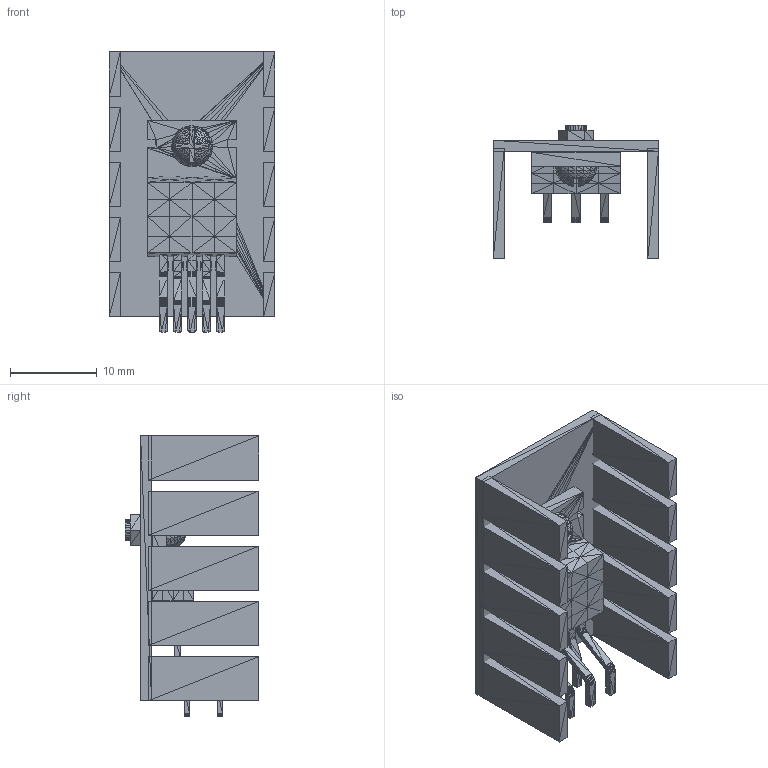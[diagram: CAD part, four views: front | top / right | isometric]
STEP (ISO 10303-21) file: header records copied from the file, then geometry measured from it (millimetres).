
FILE_DESCRIPTION(('HOOPS Exchange Step'),'2;1');
FILE_NAME('***.stp');
FILE_SCHEMA( ('AP242_MANAGED_MODEL_BASED_3D_ENGINEERING_MIM_LF {1 0 10303 442 1 1 4 }') );
Length unit declared in the file: inch
Products named in the file (23): TO-220_5WHTSNK_2; TO-220_5WHTSNK_3; TO-220_5WHTSNK_4; TO-220_5WHTSNK_5; TO-220_5WHTSNK_6; TO-220_5WHTSNK_7; TO-220_5WHTSNK_8; TO-220_5WHTSNK_9; TO-220_5WHTSNK_10; TO-220_5WHTSNK_11; TO-220_5WHTSNK_12; TO-220_5WHTSNK_13; TO-220_5WHTSNK_14; TO-220_5WHTSNK_15; TO-220_5WHTSNK_16; TO-220_5WHTSNK_17; TO-220_5WHTSNK_18; TO-220_5WHTSNK_19; TO-220_5WHTSNK_20; TO-220_5WHTSNK_21; TO-220_5WHTSNK_22; TO-220_5WHTSNK_23; TO-220_5WHTSNK
Assembly tree (22 placements, depth 2):
  TO-220_5WHTSNK
    TO-220_5WHTSNK_2
    TO-220_5WHTSNK_3
    TO-220_5WHTSNK_4
    TO-220_5WHTSNK_5
    TO-220_5WHTSNK_6
    TO-220_5WHTSNK_7
    TO-220_5WHTSNK_8
    TO-220_5WHTSNK_9
    TO-220_5WHTSNK_10
    TO-220_5WHTSNK_11
    TO-220_5WHTSNK_12
    TO-220_5WHTSNK_13
    TO-220_5WHTSNK_14
    TO-220_5WHTSNK_15
    TO-220_5WHTSNK_16
    TO-220_5WHTSNK_17
    TO-220_5WHTSNK_18
    TO-220_5WHTSNK_19
    TO-220_5WHTSNK_20
    TO-220_5WHTSNK_21
    TO-220_5WHTSNK_22
    TO-220_5WHTSNK_23
Bounding box: 19.05 x 15.34 x 32.24 mm (x, y, z)
Surface area: 7986.3 mm2 (no closed solid volume)
Topology: 0 solids, 4672 shells, 4672 faces, 10866 edges, 10194 vertices
Faces by surface type: plane 4672
Entity records: 136822 total; most frequent: CARTESIAN_POINT 25778, DIRECTION 20302, ORIENTED_EDGE 14016, VECTOR 10866, LINE 10866, EDGE_CURVE 10866, VERTEX_POINT 10194, AXIS2_PLACEMENT_3D 4718
